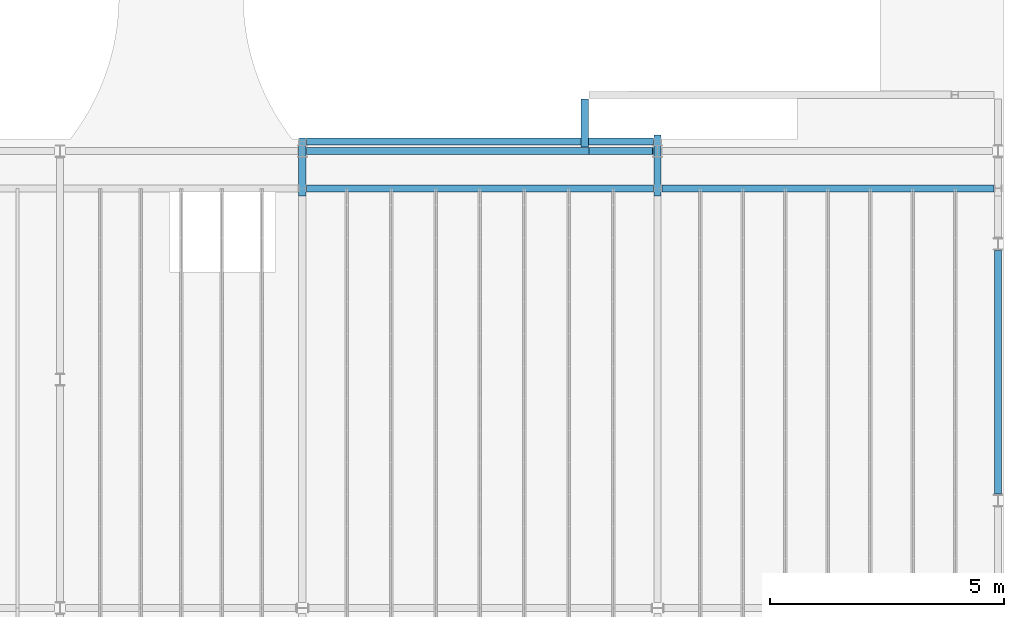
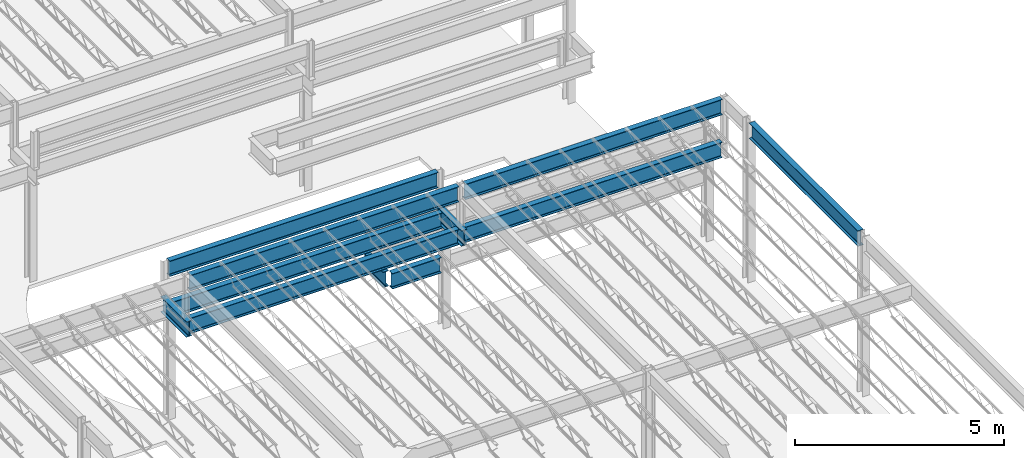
# One storey, part 13 of 119: 11 beams.
"""IFC2X3 building model written with IfcOpenShell, lengths in metres."""

from ifc_helpers import new_model, entity, si_unit, converted_unit, frame, frame_2d, origin, place, context, project, spatial, polyline, circle_curve, parameter, trimmed, segment, composite_curve, outline, extrude, material, element, save


model = new_model("IFC2X3")

# Units and contexts
model_context = context("Model", 3, precision=1e-09, world=origin())
plan_context = context("Plan", 3, precision=1e-09, world=origin())
ifc_project = project(units=[si_unit("LENGTHUNIT", "METRE"), si_unit("AREAUNIT", "SQUARE_METRE"), si_unit("VOLUMEUNIT", "CUBIC_METRE"), converted_unit("PLANEANGLEUNIT", "DEGREE", entity("IfcRatioMeasure", 0.01745329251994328), si_unit("PLANEANGLEUNIT", "RADIAN"), dimensions=[0, 0, 0, 0, 0, 0, 0]), si_unit("TIMEUNIT", "SECOND")], contexts=[model_context, plan_context])

# Site, building, storey
site_placement = place(None, origin())
site = spatial("IfcSite", under=ifc_project, at=site_placement, Name="Default", CompositionType="ELEMENT")
building_placement = place(site_placement, origin())
building = spatial("IfcBuilding", under=site, at=building_placement, CompositionType="ELEMENT")
storey_placement = place(building_placement, frame((0.0, 0.0, 4.570000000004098)))
storey = spatial("IfcBuildingStorey", under=building, at=storey_placement, Name="Second Floor", CompositionType="ELEMENT", Elevation=4.570000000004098)

# Beams
ifc_material = material(Name="Metal - Steel - 345 MPa")
beam_1_placement = place(storey_placement, frame((-8.840191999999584, 27.45216041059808, 2.0715), z_axis=(0.0, 0.0, 1.0), x_axis=(-1.0, 0.0, 0.0)))
element("IfcBeam", 1, at=beam_1_placement, inside=storey, material=ifc_material, Name="M_W-Wide Flange:W460X60:W460X60", ObjectType="M_W-Wide Flange:W460X60", context=model_context, shape_type="SweptSolid", body=[
    extrude(outline(composite_curve([segment(polyline([(0.214199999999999, -0.07649999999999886), (0.2275000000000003, -0.07649999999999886)]), True, "CONTINUOUS"), segment(polyline([(0.2275000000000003, -0.07649999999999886), (0.2275000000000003, 0.0765000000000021)]), True, "CONTINUOUS"), segment(polyline([(0.2275000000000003, 0.0765000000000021), (0.214199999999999, 0.0765000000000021)]), True, "CONTINUOUS"), segment(polyline([(0.214199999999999, 0.0765000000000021), (0.214199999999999, 0.02170000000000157)]), True, "CONTINUOUS"), segment(trimmed(circle_curve(frame_2d((0.1964999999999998, 0.02170000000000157), x_axis=(0.0, 1.0)), 0.0177), [parameter(180.0)], [parameter(269.9999999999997)], True, "PARAMETER"), False, "CONTINUOUS"), segment(polyline([(0.1964999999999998, 0.004000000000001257), (-0.1965000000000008, 0.004000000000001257)]), True, "CONTINUOUS"), segment(trimmed(circle_curve(frame_2d((-0.1965000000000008, 0.02170000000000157), x_axis=(0.0, 1.0)), 0.0177), [parameter(90.00000000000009)], [parameter(179.9999999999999)], True, "PARAMETER"), False, "CONTINUOUS"), segment(polyline([(-0.2142000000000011, 0.02170000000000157), (-0.2142000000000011, 0.0765000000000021)]), True, "CONTINUOUS"), segment(polyline([(-0.2142000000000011, 0.0765000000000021), (-0.2275000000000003, 0.0765000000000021)]), True, "CONTINUOUS"), segment(polyline([(-0.2275000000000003, 0.0765000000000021), (-0.2275000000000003, -0.07649999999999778)]), True, "CONTINUOUS"), segment(polyline([(-0.2275000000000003, -0.07649999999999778), (-0.2142000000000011, -0.07649999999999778)]), True, "CONTINUOUS"), segment(polyline([(-0.2142000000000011, -0.07649999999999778), (-0.2142000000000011, -0.02169999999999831)]), True, "CONTINUOUS"), segment(trimmed(circle_curve(frame_2d((-0.1965000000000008, -0.02169999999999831), x_axis=(0.0, 1.0)), 0.0177), [parameter(359.9999999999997)], [parameter(89.99999999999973)], True, "PARAMETER"), False, "CONTINUOUS"), segment(polyline([(-0.1965000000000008, -0.003999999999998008), (0.1964999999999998, -0.003999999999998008)]), True, "CONTINUOUS"), segment(trimmed(circle_curve(frame_2d((0.1964999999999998, -0.02169999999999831), x_axis=(0.0, 1.0)), 0.0177), [parameter(269.9999999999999)], [parameter(0.0)], True, "PARAMETER"), False, "CONTINUOUS"), segment(polyline([(0.214199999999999, -0.02169999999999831), (0.214199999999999, -0.07649999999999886)]), True, "CONTINUOUS")], self_intersect=False)), frame((0.0, -1.016539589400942, -0.2275000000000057), z_axis=(0.0, -1.0, 0.0), x_axis=(0.0, 0.0, -1.0)), (0.0, 0.0, 1.0), 1.027600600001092),
])
beam_2_placement = place(storey_placement, frame((-7.272954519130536, 28.38, 2.071499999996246), z_axis=(0.0, 0.0, 1.0), x_axis=(0.0, -1.0, 0.0)))
element("IfcBeam", 2, at=beam_2_placement, inside=storey, material=ifc_material, Name="M_W-Wide Flange:W460X60:W460X60", ObjectType="M_W-Wide Flange:W460X60", context=model_context, shape_type="SweptSolid", body=[
    extrude(outline(composite_curve([segment(polyline([(-0.07649999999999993, -0.214199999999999), (-0.07649999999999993, -0.2275000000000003)]), True, "CONTINUOUS"), segment(polyline([(-0.07649999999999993, -0.2275000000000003), (0.07649999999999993, -0.2275000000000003)]), True, "CONTINUOUS"), segment(polyline([(0.07649999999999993, -0.2275000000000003), (0.07649999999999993, -0.214199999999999)]), True, "CONTINUOUS"), segment(polyline([(0.07649999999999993, -0.214199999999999), (0.0216999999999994, -0.214199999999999)]), True, "CONTINUOUS"), segment(trimmed(circle_curve(frame_2d((0.02169999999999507, -0.1964999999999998), x_axis=(1.0, 0.0)), 0.0177), [parameter(180.0)], [parameter(269.9999999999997)], True, "PARAMETER"), False, "CONTINUOUS"), segment(polyline([(0.003999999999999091, -0.1964999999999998), (0.003999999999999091, 0.1965000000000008)]), True, "CONTINUOUS"), segment(trimmed(circle_curve(frame_2d((0.02169999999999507, 0.1965000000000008), x_axis=(1.0, 0.0)), 0.0177), [parameter(90.00000000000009)], [parameter(179.9999999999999)], True, "PARAMETER"), False, "CONTINUOUS"), segment(polyline([(0.0216999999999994, 0.2142000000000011), (0.07649999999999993, 0.2142000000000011)]), True, "CONTINUOUS"), segment(polyline([(0.07649999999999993, 0.2142000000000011), (0.07649999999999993, 0.2275000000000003)]), True, "CONTINUOUS"), segment(polyline([(0.07649999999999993, 0.2275000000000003), (-0.07649999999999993, 0.2275000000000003)]), True, "CONTINUOUS"), segment(polyline([(-0.07649999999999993, 0.2275000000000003), (-0.07649999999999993, 0.2142000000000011)]), True, "CONTINUOUS"), segment(polyline([(-0.07649999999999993, 0.2142000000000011), (-0.0216999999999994, 0.2142000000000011)]), True, "CONTINUOUS"), segment(trimmed(circle_curve(frame_2d((-0.02170000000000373, 0.1965000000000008), x_axis=(1.0, 0.0)), 0.0177), [parameter(359.9999999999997)], [parameter(89.99999999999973)], True, "PARAMETER"), False, "CONTINUOUS"), segment(polyline([(-0.003999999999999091, 0.1965000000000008), (-0.003999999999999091, -0.1964999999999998)]), True, "CONTINUOUS"), segment(trimmed(circle_curve(frame_2d((-0.02170000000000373, -0.1964999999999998), x_axis=(1.0, 0.0)), 0.0177), [parameter(269.9999999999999)], [parameter(0.0)], True, "PARAMETER"), False, "CONTINUOUS"), segment(polyline([(-0.0216999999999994, -0.214199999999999), (-0.07649999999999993, -0.214199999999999)]), True, "CONTINUOUS")], self_intersect=False)), frame((0.0, -1.478537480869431, -0.2275000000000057), z_axis=(0.0, -1.0, 0.0), x_axis=(1.0, 0.0, 0.0)), (0.0, 0.0, -1.0), 1.356791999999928),
])
beam_3_placement = place(storey_placement, frame((-7.27740451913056, 27.58500000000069, 3.366499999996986), z_axis=(0.0, 0.0, 1.0), x_axis=(0.0, -1.0, 0.0)))
element("IfcBeam", 3, at=beam_3_placement, inside=storey, material=ifc_material, Name="M_W-Wide Flange:W460X60:W460X60", ObjectType="M_W-Wide Flange:W460X60", context=model_context, shape_type="SweptSolid", body=[
    extrude(outline(composite_curve([segment(polyline([(0.214199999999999, -0.07649999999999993), (0.2275000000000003, -0.07649999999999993)]), True, "CONTINUOUS"), segment(polyline([(0.2275000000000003, -0.07649999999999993), (0.2275000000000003, 0.07649999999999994)]), True, "CONTINUOUS"), segment(polyline([(0.2275000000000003, 0.07649999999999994), (0.214199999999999, 0.07649999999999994)]), True, "CONTINUOUS"), segment(polyline([(0.214199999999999, 0.07649999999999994), (0.214199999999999, 0.0216999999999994)]), True, "CONTINUOUS"), segment(trimmed(circle_curve(frame_2d((0.1964999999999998, 0.0216999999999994), x_axis=(0.0, 1.0)), 0.0177), [parameter(180.0)], [parameter(269.9999999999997)], True, "PARAMETER"), False, "CONTINUOUS"), segment(polyline([(0.1964999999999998, 0.00399999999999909), (-0.1965000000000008, 0.00399999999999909)]), True, "CONTINUOUS"), segment(trimmed(circle_curve(frame_2d((-0.1965000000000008, 0.0216999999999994), x_axis=(0.0, 1.0)), 0.0177), [parameter(90.00000000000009)], [parameter(179.9999999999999)], True, "PARAMETER"), False, "CONTINUOUS"), segment(polyline([(-0.2142000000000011, 0.0216999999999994), (-0.2142000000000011, 0.07649999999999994)]), True, "CONTINUOUS"), segment(polyline([(-0.2142000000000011, 0.07649999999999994), (-0.2275000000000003, 0.07649999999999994)]), True, "CONTINUOUS"), segment(polyline([(-0.2275000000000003, 0.07649999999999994), (-0.2275000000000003, -0.07649999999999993)]), True, "CONTINUOUS"), segment(polyline([(-0.2275000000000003, -0.07649999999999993), (-0.2142000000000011, -0.07649999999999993)]), True, "CONTINUOUS"), segment(polyline([(-0.2142000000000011, -0.07649999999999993), (-0.2142000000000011, -0.0216999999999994)]), True, "CONTINUOUS"), segment(trimmed(circle_curve(frame_2d((-0.1965000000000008, -0.0216999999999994), x_axis=(0.0, 1.0)), 0.0177), [parameter(359.9999999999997)], [parameter(89.99999999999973)], True, "PARAMETER"), False, "CONTINUOUS"), segment(polyline([(-0.1965000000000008, -0.003999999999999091), (0.1964999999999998, -0.003999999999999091)]), True, "CONTINUOUS"), segment(trimmed(circle_curve(frame_2d((0.1964999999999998, -0.0216999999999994), x_axis=(0.0, 1.0)), 0.0177), [parameter(269.9999999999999)], [parameter(0.0)], True, "PARAMETER"), False, "CONTINUOUS"), segment(polyline([(0.214199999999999, -0.0216999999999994), (0.214199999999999, -0.07649999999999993)]), True, "CONTINUOUS")], self_intersect=False)), frame((0.0, 0.08661445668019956, -0.2275000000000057), z_axis=(0.0, 1.0, 0.0), x_axis=(0.0, 0.0, -1.0)), (0.0, 0.0, 1.0), 7.101590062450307),
])
beam_4_placement = place(storey_placement, frame((-14.87996506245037, 28.32535248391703, 3.366499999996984)))
element("IfcBeam", 4, at=beam_4_placement, inside=storey, material=ifc_material, Name="M_W-Wide Flange:W460X60:W460X60", ObjectType="M_W-Wide Flange:W460X60", context=model_context, shape_type="SweptSolid", body=[
    extrude(outline(composite_curve([segment(polyline([(0.2142000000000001, -0.07650000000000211), (0.2275000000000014, -0.07650000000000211)]), True, "CONTINUOUS"), segment(polyline([(0.2275000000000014, -0.07650000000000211), (0.2275000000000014, 0.07649999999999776)]), True, "CONTINUOUS"), segment(polyline([(0.2275000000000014, 0.07649999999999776), (0.2142000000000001, 0.07649999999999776)]), True, "CONTINUOUS"), segment(polyline([(0.2142000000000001, 0.07649999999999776), (0.2142000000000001, 0.0216999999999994)]), True, "CONTINUOUS"), segment(trimmed(circle_curve(frame_2d((0.1965000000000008, 0.0216999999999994), x_axis=(0.0, 1.0)), 0.0177), [parameter(180.0)], [parameter(269.9999999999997)], True, "PARAMETER"), False, "CONTINUOUS"), segment(polyline([(0.1965000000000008, 0.003999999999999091), (-0.1964999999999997, 0.003999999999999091)]), True, "CONTINUOUS"), segment(trimmed(circle_curve(frame_2d((-0.1964999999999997, 0.0216999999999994), x_axis=(0.0, 1.0)), 0.0177), [parameter(90.00000000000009)], [parameter(179.9999999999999)], True, "PARAMETER"), False, "CONTINUOUS"), segment(polyline([(-0.2142, 0.0216999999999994), (-0.2142, 0.07649999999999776)]), True, "CONTINUOUS"), segment(polyline([(-0.2142, 0.07649999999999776), (-0.2274999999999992, 0.07649999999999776)]), True, "CONTINUOUS"), segment(polyline([(-0.2274999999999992, 0.07649999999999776), (-0.2274999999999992, -0.07650000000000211)]), True, "CONTINUOUS"), segment(polyline([(-0.2274999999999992, -0.07650000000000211), (-0.2142, -0.07650000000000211)]), True, "CONTINUOUS"), segment(polyline([(-0.2142, -0.07650000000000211), (-0.2142, -0.02170000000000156)]), True, "CONTINUOUS"), segment(trimmed(circle_curve(frame_2d((-0.1964999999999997, -0.02170000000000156), x_axis=(0.0, 1.0)), 0.0177), [parameter(359.9999999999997)], [parameter(89.99999999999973)], True, "PARAMETER"), False, "CONTINUOUS"), segment(polyline([(-0.1964999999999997, -0.004000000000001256), (0.1965000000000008, -0.004000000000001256)]), True, "CONTINUOUS"), segment(trimmed(circle_curve(frame_2d((0.1965000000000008, -0.02170000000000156), x_axis=(0.0, 1.0)), 0.0177), [parameter(269.9999999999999)], [parameter(0.0)], True, "PARAMETER"), False, "CONTINUOUS"), segment(polyline([(0.2142000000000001, -0.02170000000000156), (0.2142000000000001, -0.07650000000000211)]), True, "CONTINUOUS")], self_intersect=False)), frame((0.0, -0.900352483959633, -0.2275000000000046), z_axis=(0.0, 1.0, 0.0), x_axis=(0.0, 0.0, -1.0)), (0.0, 0.0, 1.0), 1.239198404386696),
])
beam_5_placement = place(storey_placement, frame((-7.277404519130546, 27.58500000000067, 3.366499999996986), z_axis=(0.0, 0.0, 1.0), x_axis=(0.0, -1.0, 0.0)))
element("IfcBeam", 5, at=beam_5_placement, inside=storey, material=ifc_material, Name="M_W-Wide Flange:W460X60:W460X60", ObjectType="M_W-Wide Flange:W460X60", context=model_context, shape_type="SweptSolid", body=[
    extrude(outline(composite_curve([segment(polyline([(0.214199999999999, -0.07649999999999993), (0.2275000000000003, -0.07649999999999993)]), True, "CONTINUOUS"), segment(polyline([(0.2275000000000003, -0.07649999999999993), (0.2275000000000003, 0.07649999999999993)]), True, "CONTINUOUS"), segment(polyline([(0.2275000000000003, 0.07649999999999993), (0.214199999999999, 0.07649999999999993)]), True, "CONTINUOUS"), segment(polyline([(0.214199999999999, 0.07649999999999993), (0.214199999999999, 0.0216999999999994)]), True, "CONTINUOUS"), segment(trimmed(circle_curve(frame_2d((0.1964999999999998, 0.0216999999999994), x_axis=(0.0, 1.0)), 0.0177), [parameter(180.0)], [parameter(269.9999999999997)], True, "PARAMETER"), False, "CONTINUOUS"), segment(polyline([(0.1964999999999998, 0.003999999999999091), (-0.1965000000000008, 0.003999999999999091)]), True, "CONTINUOUS"), segment(trimmed(circle_curve(frame_2d((-0.1965000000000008, 0.0216999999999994), x_axis=(0.0, 1.0)), 0.0177), [parameter(90.00000000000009)], [parameter(179.9999999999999)], True, "PARAMETER"), False, "CONTINUOUS"), segment(polyline([(-0.2142000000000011, 0.0216999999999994), (-0.2142000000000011, 0.07649999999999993)]), True, "CONTINUOUS"), segment(polyline([(-0.2142000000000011, 0.07649999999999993), (-0.2275000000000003, 0.07649999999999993)]), True, "CONTINUOUS"), segment(polyline([(-0.2275000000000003, 0.07649999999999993), (-0.2275000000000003, -0.07649999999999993)]), True, "CONTINUOUS"), segment(polyline([(-0.2275000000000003, -0.07649999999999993), (-0.2142000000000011, -0.07649999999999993)]), True, "CONTINUOUS"), segment(polyline([(-0.2142000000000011, -0.07649999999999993), (-0.2142000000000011, -0.0216999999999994)]), True, "CONTINUOUS"), segment(trimmed(circle_curve(frame_2d((-0.1965000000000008, -0.0216999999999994), x_axis=(0.0, 1.0)), 0.0177), [parameter(359.9999999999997)], [parameter(89.99999999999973)], True, "PARAMETER"), False, "CONTINUOUS"), segment(polyline([(-0.1965000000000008, -0.003999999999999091), (0.1964999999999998, -0.003999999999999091)]), True, "CONTINUOUS"), segment(trimmed(circle_curve(frame_2d((0.1964999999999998, -0.0216999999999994), x_axis=(0.0, 1.0)), 0.0177), [parameter(269.9999999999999)], [parameter(0.0)], True, "PARAMETER"), False, "CONTINUOUS"), segment(polyline([(0.214199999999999, -0.0216999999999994), (0.214199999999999, -0.07649999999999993)]), True, "CONTINUOUS")], self_intersect=False)), frame((0.0, -7.513360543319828, -0.2275000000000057), z_axis=(0.0, 1.0, 0.0), x_axis=(0.0, 0.0, -1.0)), (0.0, 0.0, 1.0), 7.422065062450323),
])
beam_6_placement = place(storey_placement, frame((0.0, 26.42321252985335, 4.679999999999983), z_axis=(0.0, 0.0, 1.0), x_axis=(-1.0, 0.0, 0.0)))
element("IfcBeam", 6, at=beam_6_placement, inside=storey, material=ifc_material, Name="M_W-Wide Flange:W460X60:W460X60", ObjectType="M_W-Wide Flange:W460X60", context=model_context, shape_type="SweptSolid", body=[
    extrude(outline(composite_curve([segment(polyline([(0.2142000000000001, -0.07650000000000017), (0.2275000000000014, -0.07650000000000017)]), True, "CONTINUOUS"), segment(polyline([(0.2275000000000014, -0.07650000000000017), (0.2275000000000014, 0.07650000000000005)]), True, "CONTINUOUS"), segment(polyline([(0.2275000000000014, 0.07650000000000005), (0.2142000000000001, 0.07650000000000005)]), True, "CONTINUOUS"), segment(polyline([(0.2142000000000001, 0.07650000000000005), (0.2142000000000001, 0.02169999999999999)]), True, "CONTINUOUS"), segment(trimmed(circle_curve(frame_2d((0.1965000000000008, 0.02169999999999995), x_axis=(0.0, 1.0)), 0.0177), [parameter(180.0)], [parameter(269.9999999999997)], True, "PARAMETER"), False, "CONTINUOUS"), segment(polyline([(0.1965000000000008, 0.003999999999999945), (-0.1964999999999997, 0.003999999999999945)]), True, "CONTINUOUS"), segment(trimmed(circle_curve(frame_2d((-0.1964999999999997, 0.02169999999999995), x_axis=(0.0, 1.0)), 0.0177), [parameter(90.00000000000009)], [parameter(179.9999999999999)], True, "PARAMETER"), False, "CONTINUOUS"), segment(polyline([(-0.2142, 0.02169999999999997), (-0.2142, 0.07650000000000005)]), True, "CONTINUOUS"), segment(polyline([(-0.2142, 0.07650000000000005), (-0.2274999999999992, 0.07650000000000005)]), True, "CONTINUOUS"), segment(polyline([(-0.2274999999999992, 0.07650000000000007), (-0.2274999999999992, -0.0764999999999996)]), True, "CONTINUOUS"), segment(polyline([(-0.2274999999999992, -0.0764999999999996), (-0.2142, -0.0764999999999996)]), True, "CONTINUOUS"), segment(polyline([(-0.2142, -0.0764999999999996), (-0.2142, -0.02170000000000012)]), True, "CONTINUOUS"), segment(trimmed(circle_curve(frame_2d((-0.1964999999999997, -0.02170000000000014), x_axis=(0.0, 1.0)), 0.0177), [parameter(359.9999999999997)], [parameter(89.99999999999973)], True, "PARAMETER"), False, "CONTINUOUS"), segment(polyline([(-0.1964999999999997, -0.004000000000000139), (0.1965000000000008, -0.004000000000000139)]), True, "CONTINUOUS"), segment(trimmed(circle_curve(frame_2d((0.1965000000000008, -0.02170000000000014), x_axis=(0.0, 1.0)), 0.0177), [parameter(269.9999999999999)], [parameter(0.0)], True, "PARAMETER"), False, "CONTINUOUS"), segment(polyline([(0.2142000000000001, -0.0217000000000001), (0.2142000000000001, -0.07650000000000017)]), True, "CONTINUOUS")], self_intersect=False)), frame((0.0, 5.373118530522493, -0.2275000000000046), z_axis=(0.0, -1.0, 0.0), x_axis=(0.0, 0.0, -1.0)), (0.0, 0.0, 1.0), 5.207461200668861),
])
beam_7_placement = place(storey_placement, frame((-7.279990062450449, 28.32535248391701, 3.366499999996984)))
element("IfcBeam", 7, at=beam_7_placement, inside=storey, material=ifc_material, Name="M_W-Wide Flange:W460X60:W460X60", ObjectType="M_W-Wide Flange:W460X60", context=model_context, shape_type="SweptSolid", body=[
    extrude(outline(composite_curve([segment(polyline([(0.2142000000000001, -0.07650000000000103), (0.2275000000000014, -0.07650000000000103)]), True, "CONTINUOUS"), segment(polyline([(0.2275000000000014, -0.07650000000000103), (0.2275000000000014, 0.07649999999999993)]), True, "CONTINUOUS"), segment(polyline([(0.2275000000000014, 0.07649999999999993), (0.2142000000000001, 0.07649999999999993)]), True, "CONTINUOUS"), segment(polyline([(0.2142000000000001, 0.07649999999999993), (0.2142000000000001, 0.0216999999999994)]), True, "CONTINUOUS"), segment(trimmed(circle_curve(frame_2d((0.1965000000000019, 0.0216999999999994), x_axis=(0.0, 1.0)), 0.0177), [parameter(180.0)], [parameter(269.9999999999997)], True, "PARAMETER"), False, "CONTINUOUS"), segment(polyline([(0.1965000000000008, 0.003999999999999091), (-0.1964999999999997, 0.003999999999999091)]), True, "CONTINUOUS"), segment(trimmed(circle_curve(frame_2d((-0.1964999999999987, 0.0216999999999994), x_axis=(0.0, 1.0)), 0.0177), [parameter(90.00000000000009)], [parameter(179.9999999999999)], True, "PARAMETER"), False, "CONTINUOUS"), segment(polyline([(-0.2142, 0.0216999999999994), (-0.2142, 0.07649999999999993)]), True, "CONTINUOUS"), segment(polyline([(-0.2142, 0.07649999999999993), (-0.2274999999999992, 0.07649999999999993)]), True, "CONTINUOUS"), segment(polyline([(-0.2274999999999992, 0.07649999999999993), (-0.2274999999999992, -0.07649999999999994)]), True, "CONTINUOUS"), segment(polyline([(-0.2274999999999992, -0.07649999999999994), (-0.2142, -0.07649999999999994)]), True, "CONTINUOUS"), segment(polyline([(-0.2142, -0.07649999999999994), (-0.2142, -0.02170000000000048)]), True, "CONTINUOUS"), segment(trimmed(circle_curve(frame_2d((-0.1964999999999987, -0.02170000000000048), x_axis=(0.0, 1.0)), 0.0177), [parameter(359.9999999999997)], [parameter(89.99999999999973)], True, "PARAMETER"), False, "CONTINUOUS"), segment(polyline([(-0.1964999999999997, -0.004000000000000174), (0.1965000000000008, -0.004000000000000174)]), True, "CONTINUOUS"), segment(trimmed(circle_curve(frame_2d((0.1965000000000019, -0.02170000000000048), x_axis=(0.0, 1.0)), 0.0177), [parameter(269.9999999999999)], [parameter(0.0)], True, "PARAMETER"), False, "CONTINUOUS"), segment(polyline([(0.2142000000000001, -0.02170000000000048), (0.2142000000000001, -0.07650000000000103)]), True, "CONTINUOUS")], self_intersect=False)), frame((0.0, -0.900352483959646, -0.2275000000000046), z_axis=(0.0, 1.0, 0.0), x_axis=(0.0, 0.0, -1.0)), (0.0, 0.0, 1.0), 1.299999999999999),
])
beam_8_placement = place(storey_placement, frame((-7.277404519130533, 28.38000000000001, 3.366499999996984), z_axis=(0.0, 0.0, 1.0), x_axis=(0.0, -1.0, 0.0)))
element("IfcBeam", 8, at=beam_8_placement, inside=storey, material=ifc_material, Name="M_W-Wide Flange:W460X60:W460X60", ObjectType="M_W-Wide Flange:W460X60", context=model_context, shape_type="SweptSolid", body=[
    extrude(outline(composite_curve([segment(polyline([(0.2141999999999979, -0.07649999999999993), (0.2274999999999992, -0.07649999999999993)]), True, "CONTINUOUS"), segment(polyline([(0.2274999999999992, -0.07649999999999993), (0.2274999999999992, 0.07649999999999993)]), True, "CONTINUOUS"), segment(polyline([(0.2274999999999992, 0.07649999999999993), (0.2141999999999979, 0.07649999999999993)]), True, "CONTINUOUS"), segment(polyline([(0.2141999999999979, 0.07649999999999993), (0.2141999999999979, 0.0216999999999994)]), True, "CONTINUOUS"), segment(trimmed(circle_curve(frame_2d((0.1964999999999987, 0.02170000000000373), x_axis=(0.0, 1.0)), 0.0177), [parameter(180.0)], [parameter(269.9999999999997)], True, "PARAMETER"), False, "CONTINUOUS"), segment(polyline([(0.1964999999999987, 0.003999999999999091), (-0.1965000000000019, 0.003999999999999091)]), True, "CONTINUOUS"), segment(trimmed(circle_curve(frame_2d((-0.1965000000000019, 0.02170000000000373), x_axis=(0.0, 1.0)), 0.0177), [parameter(90.00000000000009)], [parameter(179.9999999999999)], True, "PARAMETER"), False, "CONTINUOUS"), segment(polyline([(-0.2142000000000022, 0.0216999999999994), (-0.2142000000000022, 0.07649999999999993)]), True, "CONTINUOUS"), segment(polyline([(-0.2142000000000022, 0.07649999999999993), (-0.2275000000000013, 0.07649999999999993)]), True, "CONTINUOUS"), segment(polyline([(-0.2275000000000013, 0.07649999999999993), (-0.2275000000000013, -0.07649999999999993)]), True, "CONTINUOUS"), segment(polyline([(-0.2275000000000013, -0.07649999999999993), (-0.2142000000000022, -0.07649999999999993)]), True, "CONTINUOUS"), segment(polyline([(-0.2142000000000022, -0.07649999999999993), (-0.2142000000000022, -0.0216999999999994)]), True, "CONTINUOUS"), segment(trimmed(circle_curve(frame_2d((-0.1965000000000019, -0.02169999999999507), x_axis=(0.0, 1.0)), 0.0177), [parameter(359.9999999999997)], [parameter(89.99999999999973)], True, "PARAMETER"), False, "CONTINUOUS"), segment(polyline([(-0.1965000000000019, -0.003999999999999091), (0.1964999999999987, -0.003999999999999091)]), True, "CONTINUOUS"), segment(trimmed(circle_curve(frame_2d((0.1964999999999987, -0.02169999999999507), x_axis=(0.0, 1.0)), 0.0177), [parameter(269.9999999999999)], [parameter(0.0)], True, "PARAMETER"), False, "CONTINUOUS"), segment(polyline([(0.2141999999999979, -0.0216999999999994), (0.2141999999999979, -0.07649999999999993)]), True, "CONTINUOUS")], self_intersect=False)), frame((0.0, -7.51336054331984, -0.2275000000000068), z_axis=(0.0, 1.0, 0.0), x_axis=(0.0, 0.0, -1.0)), (0.0, 0.0, 1.0), 7.421574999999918),
])
beam_9_placement = place(storey_placement, frame((-7.680241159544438, 28.58500000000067, 4.426476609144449), z_axis=(-2.134277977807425e-06, 0.0, 1.0), x_axis=(0.0, 1.0, 0.0)))
element("IfcBeam", 9, at=beam_9_placement, inside=storey, material=ifc_material, Name="M_W-Wide Flange:W460X60:W460X60", ObjectType="M_W-Wide Flange:W460X60", context=model_context, shape_type="SweptSolid", body=[
    extrude(outline(composite_curve([segment(polyline([(-0.07650000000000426, -0.214199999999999), (-0.07650000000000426, -0.2274999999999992)]), True, "CONTINUOUS"), segment(polyline([(-0.07650000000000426, -0.2274999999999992), (0.0764999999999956, -0.2274999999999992)]), True, "CONTINUOUS"), segment(polyline([(0.0764999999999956, -0.2274999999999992), (0.0764999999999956, -0.214199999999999)]), True, "CONTINUOUS"), segment(polyline([(0.0764999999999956, -0.214199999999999), (0.02169999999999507, -0.214199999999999)]), True, "CONTINUOUS"), segment(trimmed(circle_curve(frame_2d((0.02169999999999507, -0.1964999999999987), x_axis=(1.0, 0.0)), 0.0177), [parameter(180.0)], [parameter(269.9999999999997)], True, "PARAMETER"), False, "CONTINUOUS"), segment(polyline([(0.00399999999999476, -0.1964999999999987), (0.00399999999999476, 0.1965000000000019)]), True, "CONTINUOUS"), segment(trimmed(circle_curve(frame_2d((0.02169999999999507, 0.1965000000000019), x_axis=(1.0, 0.0)), 0.0177), [parameter(90.00000000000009)], [parameter(179.9999999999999)], True, "PARAMETER"), False, "CONTINUOUS"), segment(polyline([(0.02169999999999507, 0.2142000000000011), (0.0764999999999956, 0.2142000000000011)]), True, "CONTINUOUS"), segment(polyline([(0.0764999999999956, 0.2142000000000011), (0.0764999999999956, 0.2275000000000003)]), True, "CONTINUOUS"), segment(polyline([(0.0764999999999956, 0.2275000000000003), (-0.07650000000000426, 0.2275000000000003)]), True, "CONTINUOUS"), segment(polyline([(-0.07650000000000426, 0.2275000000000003), (-0.07650000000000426, 0.2142000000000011)]), True, "CONTINUOUS"), segment(polyline([(-0.07650000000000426, 0.2142000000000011), (-0.02170000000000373, 0.2142000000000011)]), True, "CONTINUOUS"), segment(trimmed(circle_curve(frame_2d((-0.02170000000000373, 0.1965000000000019), x_axis=(1.0, 0.0)), 0.0177), [parameter(359.9999999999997)], [parameter(89.99999999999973)], True, "PARAMETER"), False, "CONTINUOUS"), segment(polyline([(-0.004000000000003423, 0.1965000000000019), (-0.004000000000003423, -0.1964999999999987)]), True, "CONTINUOUS"), segment(trimmed(circle_curve(frame_2d((-0.02170000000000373, -0.1964999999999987), x_axis=(1.0, 0.0)), 0.0177), [parameter(269.9999999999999)], [parameter(0.0)], True, "PARAMETER"), False, "CONTINUOUS"), segment(polyline([(-0.02170000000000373, -0.214199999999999), (-0.07650000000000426, -0.214199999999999)]), True, "CONTINUOUS")], self_intersect=False)), frame((0.0, 7.11103384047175, -0.2275000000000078), z_axis=(0.0, 1.0, 0.0), x_axis=(-1.0, 0.0, 0.0)), (0.0, 0.0, -1.0), 7.422582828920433),
])
beam_10_placement = place(storey_placement, frame((-7.277337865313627, 27.58500000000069, 4.616499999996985), z_axis=(0.0, 0.0, 1.0), x_axis=(0.0, -1.0, 0.0)))
element("IfcBeam", 10, at=beam_10_placement, inside=storey, material=ifc_material, Name="M_W-Wide Flange:W460X60:W460X60", ObjectType="M_W-Wide Flange:W460X60", context=model_context, shape_type="SweptSolid", body=[
    extrude(outline(composite_curve([segment(polyline([(0.2142000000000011, -0.07649999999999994), (0.2275000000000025, -0.07649999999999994)]), True, "CONTINUOUS"), segment(polyline([(0.2275000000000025, -0.07649999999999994), (0.2275000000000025, 0.07649999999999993)]), True, "CONTINUOUS"), segment(polyline([(0.2275000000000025, 0.07649999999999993), (0.2142000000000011, 0.07649999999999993)]), True, "CONTINUOUS"), segment(polyline([(0.2142000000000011, 0.07649999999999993), (0.2142000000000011, 0.0216999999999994)]), True, "CONTINUOUS"), segment(trimmed(circle_curve(frame_2d((0.1965000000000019, 0.02170000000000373), x_axis=(0.0, 1.0)), 0.0177), [parameter(180.0)], [parameter(269.9999999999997)], True, "PARAMETER"), False, "CONTINUOUS"), segment(polyline([(0.1965000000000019, 0.003999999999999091), (-0.1964999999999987, 0.003999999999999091)]), True, "CONTINUOUS"), segment(trimmed(circle_curve(frame_2d((-0.1964999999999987, 0.02170000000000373), x_axis=(0.0, 1.0)), 0.0177), [parameter(90.00000000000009)], [parameter(179.9999999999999)], True, "PARAMETER"), False, "CONTINUOUS"), segment(polyline([(-0.214199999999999, 0.0216999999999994), (-0.214199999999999, 0.07649999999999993)]), True, "CONTINUOUS"), segment(polyline([(-0.214199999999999, 0.07649999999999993), (-0.2274999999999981, 0.07649999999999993)]), True, "CONTINUOUS"), segment(polyline([(-0.2274999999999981, 0.07649999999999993), (-0.2274999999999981, -0.07649999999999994)]), True, "CONTINUOUS"), segment(polyline([(-0.2274999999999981, -0.07649999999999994), (-0.214199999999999, -0.07649999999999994)]), True, "CONTINUOUS"), segment(polyline([(-0.214199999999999, -0.07649999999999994), (-0.214199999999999, -0.0216999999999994)]), True, "CONTINUOUS"), segment(trimmed(circle_curve(frame_2d((-0.1964999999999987, -0.02169999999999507), x_axis=(0.0, 1.0)), 0.0177), [parameter(359.9999999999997)], [parameter(89.99999999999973)], True, "PARAMETER"), False, "CONTINUOUS"), segment(polyline([(-0.1964999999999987, -0.00399999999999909), (0.1965000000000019, -0.00399999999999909)]), True, "CONTINUOUS"), segment(trimmed(circle_curve(frame_2d((0.1965000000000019, -0.02169999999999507), x_axis=(0.0, 1.0)), 0.0177), [parameter(269.9999999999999)], [parameter(0.0)], True, "PARAMETER"), False, "CONTINUOUS"), segment(polyline([(0.2142000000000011, -0.0216999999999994), (0.2142000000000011, -0.07649999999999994)]), True, "CONTINUOUS")], self_intersect=False)), frame((0.0, -7.513937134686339, -0.2275000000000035), z_axis=(0.0, 1.0, 0.0), x_axis=(0.0, 0.0, -1.0)), (0.0, 0.0, 1.0), 7.422574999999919),
])
beam_11_placement = place(storey_placement, frame((-7.277404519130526, 27.58500000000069, 4.616499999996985), z_axis=(0.0, 0.0, 1.0), x_axis=(0.0, -1.0, 0.0)))
element("IfcBeam", 11, at=beam_11_placement, inside=storey, material=ifc_material, Name="M_W-Wide Flange:W460X60:W460X60", ObjectType="M_W-Wide Flange:W460X60", context=model_context, shape_type="SweptSolid", body=[
    extrude(outline(composite_curve([segment(polyline([(0.2142000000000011, -0.07649999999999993), (0.2275000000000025, -0.07649999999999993)]), True, "CONTINUOUS"), segment(polyline([(0.2275000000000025, -0.07649999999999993), (0.2275000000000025, 0.07649999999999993)]), True, "CONTINUOUS"), segment(polyline([(0.2275000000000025, 0.07649999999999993), (0.2142000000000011, 0.07649999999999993)]), True, "CONTINUOUS"), segment(polyline([(0.2142000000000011, 0.07649999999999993), (0.2142000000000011, 0.0216999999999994)]), True, "CONTINUOUS"), segment(trimmed(circle_curve(frame_2d((0.1965000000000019, 0.0216999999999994), x_axis=(0.0, 1.0)), 0.0177), [parameter(180.0)], [parameter(269.9999999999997)], True, "PARAMETER"), False, "CONTINUOUS"), segment(polyline([(0.1965000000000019, 0.003999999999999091), (-0.1964999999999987, 0.003999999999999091)]), True, "CONTINUOUS"), segment(trimmed(circle_curve(frame_2d((-0.1964999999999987, 0.0216999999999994), x_axis=(0.0, 1.0)), 0.0177), [parameter(90.00000000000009)], [parameter(179.9999999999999)], True, "PARAMETER"), False, "CONTINUOUS"), segment(polyline([(-0.214199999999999, 0.0216999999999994), (-0.214199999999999, 0.07649999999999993)]), True, "CONTINUOUS"), segment(polyline([(-0.214199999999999, 0.07649999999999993), (-0.2274999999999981, 0.07649999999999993)]), True, "CONTINUOUS"), segment(polyline([(-0.2274999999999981, 0.07649999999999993), (-0.2274999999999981, -0.07649999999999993)]), True, "CONTINUOUS"), segment(polyline([(-0.2274999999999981, -0.07649999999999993), (-0.214199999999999, -0.07649999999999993)]), True, "CONTINUOUS"), segment(polyline([(-0.214199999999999, -0.07649999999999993), (-0.214199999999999, -0.0216999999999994)]), True, "CONTINUOUS"), segment(trimmed(circle_curve(frame_2d((-0.1964999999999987, -0.0216999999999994), x_axis=(0.0, 1.0)), 0.0177), [parameter(359.9999999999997)], [parameter(89.99999999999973)], True, "PARAMETER"), False, "CONTINUOUS"), segment(polyline([(-0.1964999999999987, -0.003999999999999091), (0.1965000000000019, -0.003999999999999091)]), True, "CONTINUOUS"), segment(trimmed(circle_curve(frame_2d((0.1965000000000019, -0.0216999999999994), x_axis=(0.0, 1.0)), 0.0177), [parameter(269.9999999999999)], [parameter(0.0)], True, "PARAMETER"), False, "CONTINUOUS"), segment(polyline([(0.2142000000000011, -0.0216999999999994), (0.2142000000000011, -0.07649999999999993)]), True, "CONTINUOUS")], self_intersect=False)), frame((0.0, 0.08610451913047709, -0.2275000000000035), z_axis=(0.0, 1.0, 0.0), x_axis=(0.0, 0.0, -1.0)), (0.0, 0.0, 1.0), 7.102590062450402),
])

save(model, "model.ifc")
